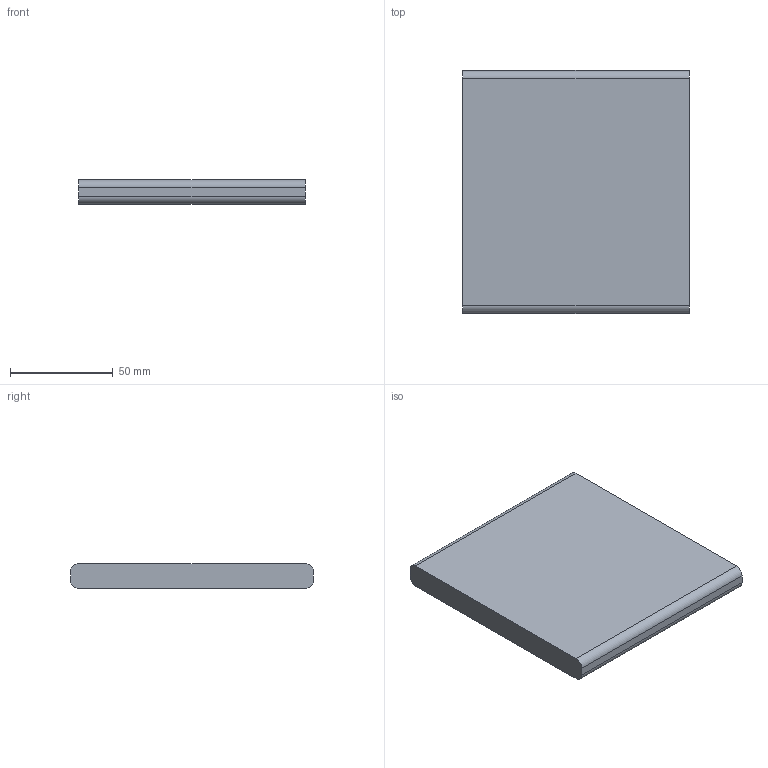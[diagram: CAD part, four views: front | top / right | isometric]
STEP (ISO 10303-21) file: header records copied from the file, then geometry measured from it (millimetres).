
FILE_DESCRIPTION(('Open CASCADE Model'),'2;1');
FILE_NAME('Open CASCADE Shape Model','2026-10-17T16:45:02',('Author'),( 'Open CASCADE'),'Open CASCADE STEP processor 8.0','build123d', 'Unknown');
FILE_SCHEMA(('AUTOMOTIVE_DESIGN { 1 0 10303 214 1 1 1 1 }'));
Length unit declared in the file: millimetre
Products named in the file (2): =>[0:1:1:2]; COMPOUND
Assembly tree (1 placements, depth 2):
  =>[0:1:1:2]
    COMPOUND
Bounding box: 110 x 118 x 12 mm (x, y, z)
Volume: 154249.2 mm3; surface area: 30649.1 mm2
Topology: 1 solids, 1 shells, 10 faces, 24 edges, 16 vertices
Faces by surface type: plane 6, cylinder 4
Entity records: 648 total; most frequent: CARTESIAN_POINT 124, DIRECTION 100, LINE 56, VECTOR 56, ORIENTED_EDGE 48, PCURVE 48, DEFINITIONAL_REPRESENTATION 48, EDGE_CURVE 24
